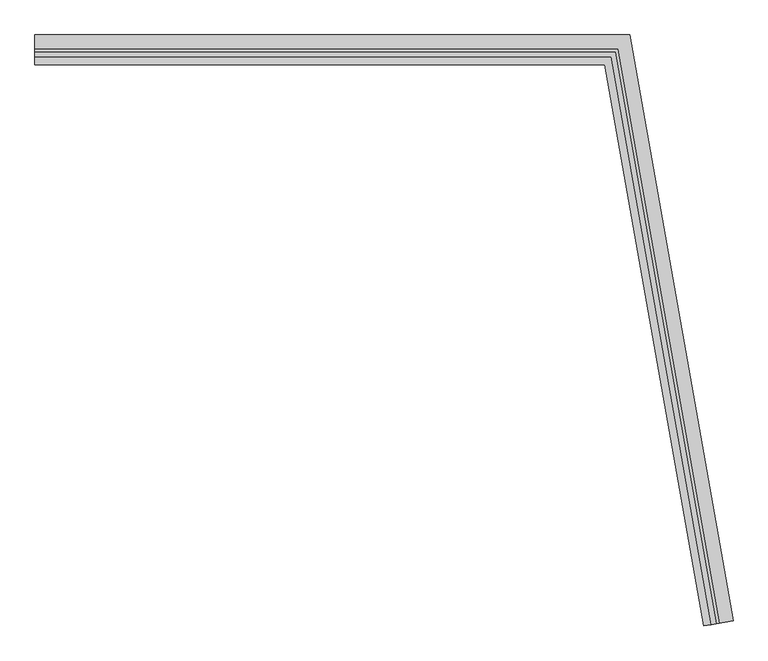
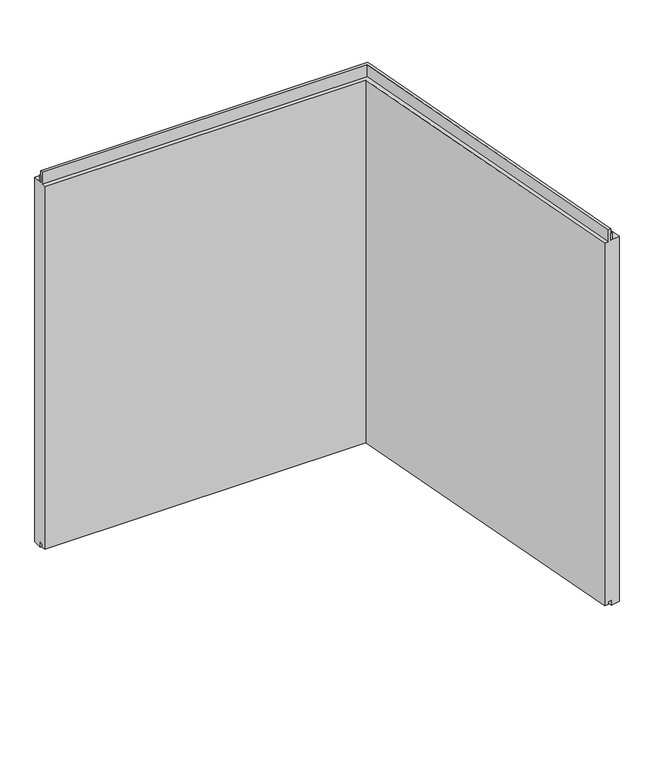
"""IFC4 building model written with IfcOpenShell, lengths in millimetres: plate geometry, Trimo_Qbiss Screen_L Corner Panel-HORIZONTAL : HR - B."""

import ifcopenshell
import ifcopenshell.guid

model = None  # the IFC model being written
_history = None  # IfcOwnerHistory: only IFC2X3 demands one
_inside = {}  # id of a spatial element -> (the spatial element, [elements in it])
_under = {}  # id of a project, library or spatial element -> (it, [spatial elements below it])
_declared = {}  # id of a project -> (the project, [libraries it declares])
_typed = {}  # id of a type object -> (the type object, [elements of that type])
_made_of = {}  # id of a material, layer set ... -> (it, [elements and type objects made of it])


def new_model(schema):
    """Start an empty IFC model of exactly this schema.

    Asked for "IFC4X3", IfcOpenShell would pick the latest addendum, in which some entities
    have other attributes; the version numbers below select the first issue.
    IFC2X3 requires an IfcOwnerHistory on every rooted entity: one is made here for all.
    """
    global model, _history
    if schema == "IFC4X3":
        model = ifcopenshell.file(schema_version=(4, 3, 0, 0))
    else:
        model = ifcopenshell.file(schema=schema)
    _inside.clear()
    _under.clear()
    _declared.clear()
    _typed.clear()
    _made_of.clear()
    _history = None
    if model.schema == "IFC2X3":
        org = make("IfcOrganization", Name="unknown")
        user = make(
            "IfcPersonAndOrganization",
            ThePerson=make("IfcPerson", FamilyName="unknown"),
            TheOrganization=org,
        )
        app = make(
            "IfcApplication",
            ApplicationDeveloper=org,
            Version="unknown",
            ApplicationFullName="unknown",
            ApplicationIdentifier="unknown",
        )
        _history = make(
            "IfcOwnerHistory",
            OwningUser=user,
            OwningApplication=app,
            ChangeAction="ADDED",
            CreationDate=0,
        )
    return model


def make(cls, **values):
    """One entity of the class cls with the attributes given. An attribute that is None is left unset."""
    return model.create_entity(
        cls, **{name: value for name, value in values.items() if value is not None}
    )


def rooted(cls, **values):
    """An entity with a GlobalId (a new one), such as an element, a storey or a relation."""
    return make(cls, GlobalId=ifcopenshell.guid.new(), OwnerHistory=_history, **values)


def si_unit(unit_type, name, prefix=None):
    """IfcSIUnit, for example si_unit("LENGTHUNIT", "METRE", prefix="MILLI")."""
    return make("IfcSIUnit", UnitType=unit_type, Prefix=prefix, Name=name)


def assignment(units):
    """IfcUnitAssignment: the units of a project."""
    return None if units is None else make("IfcUnitAssignment", Units=units)


def point(xyz):
    """IfcCartesianPoint."""
    return None if xyz is None else make("IfcCartesianPoint", Coordinates=xyz)


def direction(xyz):
    """IfcDirection."""
    return None if xyz is None else make("IfcDirection", DirectionRatios=xyz)


def frame(location, z_axis=None, x_axis=None):
    """IfcAxis2Placement3D, a coordinate frame: its origin and axes. An axis left out is left unset."""
    return make(
        "IfcAxis2Placement3D",
        Location=point(location),
        Axis=direction(z_axis),
        RefDirection=direction(x_axis),
    )


def origin():
    """The frame at (0, 0, 0) with its axes left unset."""
    return frame((0.0, 0.0, 0.0))


def place(relative_to, where):
    """IfcLocalPlacement: puts the frame where relative to a parent placement (None: the world)."""
    return make(
        "IfcLocalPlacement", PlacementRelTo=relative_to, RelativePlacement=where
    )


def context(
    kind, dimensions, precision=None, world=None, true_north=None, identifier=None
):
    """IfcGeometricRepresentationContext, for example the 3D "Model" context."""
    return make(
        "IfcGeometricRepresentationContext",
        ContextIdentifier=identifier,
        ContextType=kind,
        CoordinateSpaceDimension=dimensions,
        Precision=precision,
        WorldCoordinateSystem=world,
        TrueNorth=true_north,
    )


def project(units=None, contexts=None):
    """IfcProject with its units and contexts."""
    return rooted(
        "IfcProject",
        Name="project",
        RepresentationContexts=contexts,
        UnitsInContext=assignment(units),
    )


def spatial(cls, under=None, at=None, **own):
    """A site, building, storey or space (cls), placed at a placement, below another one or the project."""
    s = rooted(cls, ObjectPlacement=at, **own)
    if under is not None:
        _under.setdefault(under.id(), (under, []))[1].append(s)
    return s


def polyline(points):
    """IfcPolyline through the points."""
    return make("IfcPolyline", Points=[point(p) for p in points])


def outline(outer, holes=None, kind="AREA"):
    """IfcArbitraryClosedProfileDef: a profile drawn as a closed curve; with holes, ...WithVoids."""
    if holes is None:
        return make("IfcArbitraryClosedProfileDef", ProfileType=kind, OuterCurve=outer)
    return make(
        "IfcArbitraryProfileDefWithVoids",
        ProfileType=kind,
        OuterCurve=outer,
        InnerCurves=holes,
    )


def extrude(swept, where, along, depth):
    """IfcExtrudedAreaSolid: the profile swept, set in the frame where, extruded along a direction by depth."""
    return make(
        "IfcExtrudedAreaSolid",
        SweptArea=swept,
        Position=where,
        ExtrudedDirection=direction(along),
        Depth=depth,
    )


def faces_of(points, faces, orient=None, outer=None):
    """IfcFace entities. A face is a list of loops; a loop is a list of indices into points, from 0.

    orient and outer hold one flag for each loop. By default every Orientation is true, the
    first loop of a face is its IfcFaceOuterBound and the others are IfcFaceBound.
    """
    made = []
    for i, loops in enumerate(faces):
        bounds = []
        for j, loop in enumerate(loops):
            is_outer = j == 0 if outer is None else outer[i][j]
            bounds.append(
                make(
                    "IfcFaceOuterBound" if is_outer else "IfcFaceBound",
                    Bound=make("IfcPolyLoop", Polygon=[points[k] for k in loop]),
                    Orientation=True if orient is None else orient[i][j],
                )
            )
        made.append(make("IfcFace", Bounds=bounds))
    return made


def faceted_brep(points, faces, orient=None, outer=None, voids=None):
    """IfcFacetedBrep: a solid bounded by flat faces; with voids (closed shells), ...WithVoids."""
    shared = [point(p) for p in points]
    hull = make("IfcClosedShell", CfsFaces=faces_of(shared, faces, orient, outer))
    if voids is None:
        return make("IfcFacetedBrep", Outer=hull)
    return make(
        "IfcFacetedBrepWithVoids",
        Outer=hull,
        Voids=[
            make(cls, CfsFaces=faces_of(shared, fs, o, b)) for cls, fs, o, b in voids
        ],
    )


def shape(context_of_items, identifier, shape_type, items):
    """IfcShapeRepresentation: the items that make up one representation, for example the "Body"."""
    return make(
        "IfcShapeRepresentation",
        ContextOfItems=context_of_items,
        RepresentationIdentifier=identifier,
        RepresentationType=shape_type,
        Items=items,
    )


def source(mapping_origin, context_of_items, identifier, shape_type, items):
    """IfcRepresentationMap: a shape defined once, which mapped items show again and again."""
    return make(
        "IfcRepresentationMap",
        MappingOrigin=mapping_origin,
        MappedRepresentation=shape(context_of_items, identifier, shape_type, items),
    )


def transform(
    local_origin,
    x_axis=None,
    y_axis=None,
    z_axis=None,
    scale=None,
    scale2=None,
    scale3=None,
    uniform=True,
):
    """IfcCartesianTransformationOperator3D, or its non-uniform kind. x_axis, y_axis, z_axis: its Axis1, 2, 3."""
    if uniform:
        return make(
            "IfcCartesianTransformationOperator3D",
            Axis1=direction(x_axis),
            Axis2=direction(y_axis),
            LocalOrigin=point(local_origin),
            Scale=scale,
            Axis3=direction(z_axis),
        )
    return make(
        "IfcCartesianTransformationOperator3DnonUniform",
        Axis1=direction(x_axis),
        Axis2=direction(y_axis),
        LocalOrigin=point(local_origin),
        Scale=scale,
        Axis3=direction(z_axis),
        Scale2=scale2,
        Scale3=scale3,
    )


def mapped(mapping_source, mapping_target):
    """IfcMappedItem: shows the shape of a source again, moved by a transform."""
    return make(
        "IfcMappedItem", MappingSource=mapping_source, MappingTarget=mapping_target
    )


def made_of(thing, what):
    """Note that an element or type object is made of a material, layer set ...; save() writes the relation."""
    if what is not None:
        _made_of.setdefault(what.id(), (what, []))[1].append(thing)
    return thing


def element(
    cls,
    number,
    at=None,
    inside=None,
    cuts=None,
    type_object=None,
    material=None,
    context=None,
    identifier="Body",
    shape_type=None,
    held_by="IfcProductDefinitionShape",
    body=None,
    shapes=None,
    **own,
):
    """One element of the class cls, such as IfcWall. Its Tag is "e" and its number.

    at: its placement. inside: the storey or other place that contains it. cuts: it is an
    opening in that element (IfcRelVoidsElement). A single representation is given by context,
    identifier, shape_type and body (its items); several are given by shapes. held_by: the class
    of the entity that holds the representations. save() writes the other relations.
    """
    e = rooted(cls, Tag="e%d" % number, ObjectPlacement=at, **own)
    if body is not None:
        shapes = [shape(context, identifier, shape_type, body)]
    if shapes is not None:
        e.Representation = make(held_by, Representations=shapes)
    if inside is not None:
        _inside.setdefault(inside.id(), (inside, []))[1].append(e)
    if cuts is not None:
        rooted(
            "IfcRelVoidsElement", RelatingBuildingElement=cuts, RelatedOpeningElement=e
        )
    if type_object is not None:
        _typed.setdefault(type_object.id(), (type_object, []))[1].append(e)
    return made_of(e, material)


def aggregate(whole, parts):
    """IfcRelAggregates: a whole, such as a stair, and the parts it consists of."""
    return rooted("IfcRelAggregates", RelatingObject=whole, RelatedObjects=parts)


def save(model, path):
    """Write the relations noted so far, then the file.

    IfcRelAggregates (storeys below a building ...), IfcRelContainedInSpatialStructure (elements
    in a storey), IfcRelDefinesByType, IfcRelAssociatesMaterial and IfcRelDeclares: one each for
    every whole, place, type object, material and project.
    """
    for whole, parts in _under.values():
        aggregate(whole, parts)
    for where, things in _inside.values():
        rooted(
            "IfcRelContainedInSpatialStructure",
            RelatedElements=things,
            RelatingStructure=where,
        )
    for kind, things in _typed.values():
        rooted("IfcRelDefinesByType", RelatedObjects=things, RelatingType=kind)
    for what, things in _made_of.values():
        rooted("IfcRelAssociatesMaterial", RelatedObjects=things, RelatingMaterial=what)
    for by, libraries in _declared.values():
        rooted("IfcRelDeclares", RelatingContext=by, RelatedDefinitions=libraries)
    model.write(path)


def plate_704d47aa(model_context):
    return source(origin(), model_context, "Body", "SolidModel", [
        extrude(outline(polyline([(-451.7950184, 71.0), (-451.7950184, 76.0), (528.0665904, 76.0), (698.2177732, -888.9753093), (693.2937344, -889.8435502), (523.8710923, 71.0), (-451.7950184, 71.0)])), frame((0.0, 0.0, 1150.5), z_axis=(0.0, 0.0, 1.0), x_axis=(1.0, 0.0, 0.0)), (0.0, 0.0, 1.0), 21.0),
        faceted_brep([(-451.7950184, 71.0, 1149.5), (-451.7950184, 100.0, 1149.5), (-451.7950184, 100.0, 0.0), (-451.7950184, 72.0, 0.0), (-451.7950184, 72.0, 15.5), (-451.7950184, 62.0, 15.5), (-451.7950184, 62.0, 7.0), (-451.7950184, 50.0, 7.0), (-451.7950184, 50.0, 1149.5), (-451.7950184, 63.0, 1149.5), (-451.7950184, 63.0, 1187.0), (-451.7950184, 71.0, 1187.0), (523.8710923, 71.0, 1149.5), (693.2937344, -889.8435502, 1149.5), (721.8531592, -884.807753, 1149.5), (548.2049816, 100.0, 1149.5), (548.2049816, 100.0, 0.0), (721.8531592, -884.807753, 0.0), (694.2785421, -889.669902, 0.0), (524.7101919, 72.0, 0.0), (524.7101919, 72.0, 15.5), (694.2785421, -889.669902, 15.5), (684.4304646, -891.4063838, 15.5), (516.3191956, 62.0, 15.5), (516.3191956, 62.0, 7.0), (684.4304646, -891.4063838, 7.0), (672.6127716, -893.4901619, 7.0), (506.25, 50.0, 7.0), (506.25, 50.0, 1149.5), (672.6127716, -893.4901619, 1149.5), (685.4152724, -891.2327356, 1149.5), (517.1582952, 63.0, 1149.5), (517.1582952, 63.0, 1187.0), (685.4152724, -891.2327356, 1187.0), (693.2937344, -889.8435502, 1187.0), (523.8710923, 71.0, 1187.0)], [[[0, 1, 2, 3, 4, 5, 6, 7, 8, 9, 10, 11]], [[1, 0, 12, 13, 14, 15]], [[2, 1, 15, 16]], [[3, 2, 16, 17, 18, 19]], [[4, 3, 19, 20]], [[5, 4, 20, 21, 22, 23]], [[6, 5, 23, 24]], [[7, 6, 24, 25, 26, 27]], [[8, 7, 27, 28]], [[9, 8, 28, 29, 30, 31]], [[10, 9, 31, 32]], [[11, 10, 32, 33, 34, 35]], [[0, 11, 35, 12]], [[13, 34, 33, 30, 29, 26, 25, 22, 21, 18, 17, 14]], [[16, 15, 14, 17]], [[20, 19, 18, 21]], [[24, 23, 22, 25]], [[28, 27, 26, 29]], [[32, 31, 30, 33]], [[12, 35, 34, 13]]]),
    ])


if __name__ == "__main__":
    model = new_model("IFC4")
    model_context = context("Model", 3, world=origin())
    ifc_project = project(units=[si_unit("LENGTHUNIT", "METRE", prefix="MILLI")], contexts=[model_context])
    site = spatial("IfcSite", under=ifc_project)
    building = spatial("IfcBuilding", under=site)
    placement = place(None, origin())
    plate_shape = plate_704d47aa(model_context)
    element("IfcPlate", 1, ObjectType="Trimo_Qbiss Screen_L Corner Panel-HORIZONTAL : HR - B", at=placement, inside=building, context=model_context, shape_type="MappedRepresentation", body=[
        mapped(plate_shape, transform((0.0, 0.0, 0.0), x_axis=(1.0, 0.0, 0.0), y_axis=(0.0, 1.0, 0.0), z_axis=(0.0, 0.0, 1.0))),
    ])
    save(model, "model.ifc")
